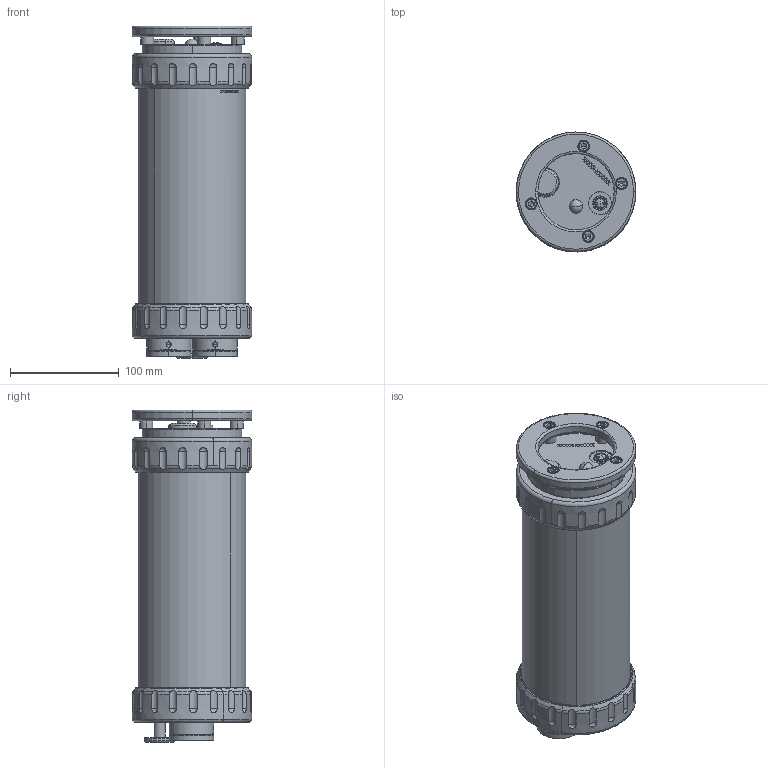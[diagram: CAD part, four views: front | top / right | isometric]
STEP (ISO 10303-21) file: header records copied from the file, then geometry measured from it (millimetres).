
FILE_DESCRIPTION (( 'STEP AP214' ), '1' );
FILE_NAME ('Bathy 701 endcap Sub-Assembly 2x00987 WB.STEP', '2019-06-10T09:19:49', ( '' ), ( '' ), 'SwSTEP 2.0', 'SolidWorks 2018', '' );
FILE_SCHEMA (( 'AUTOMOTIVE_DESIGN' ));
Length unit declared in the file: millimetre
Products named in the file (1): Bathy 701 endcap Sub-Assembly 2x00987 WB
Bounding box: 109.64 x 109.64 x 304.6 mm (x, y, z)
Surface area: 154316.8 mm2 (no closed solid volume)
Topology: 0 solids, 56 shells, 704 faces, 2668 edges, 1904 vertices
Faces by surface type: cylinder 214, plane 187, cone 106, torus 86, sphere 72, bspline 39
Entity records: 38935 total; most frequent: CARTESIAN_POINT 10283, DIRECTION 4262, ORIENTED_EDGE 3886, EDGE_CURVE 2536, VERTEX_POINT 1842, AXIS2_PLACEMENT_3D 1560, LINE 1142, VECTOR 1142
